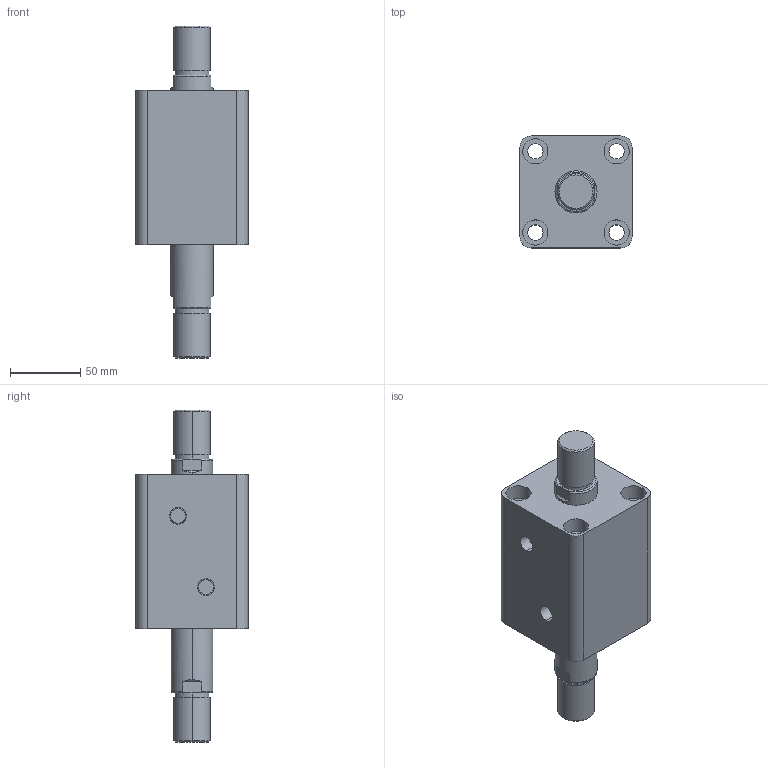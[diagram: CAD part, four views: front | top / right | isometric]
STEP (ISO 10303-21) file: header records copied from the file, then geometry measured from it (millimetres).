
FILE_DESCRIPTION (( 'STEP AP203' ), '1' );
FILE_NAME ('HTB-SW50-35W.STEP', '2019-10-07T09:19:38', ( '微软用户' ), ( '微软中国' ), 'SwSTEP 2.0', 'SolidWorks 2012', '' );
FILE_SCHEMA (( 'CONFIG_CONTROL_DESIGN' ));
Length unit declared in the file: millimetre
Products named in the file (3): HTB-SW50-35W; HTB-SW50-35W活塞杆; HTB-SW50-35掛极
Assembly tree (2 placements, depth 2):
  HTB-SW50-35W
    HTB-SW50-35掛极
    HTB-SW50-35W活塞杆
Bounding box: 80 x 80 x 237 mm (x, y, z)
Volume: 672491.9 mm3; surface area: 105200 mm2
Topology: 2 solids, 2 shells, 108 faces, 240 edges, 156 vertices
Faces by surface type: cylinder 52, plane 36, torus 12, cone 8
Entity records: 3449 total; most frequent: CARTESIAN_POINT 629, DIRECTION 586, ORIENTED_EDGE 480, AXIS2_PLACEMENT_3D 249, EDGE_CURVE 240, VERTEX_POINT 156, EDGE_LOOP 138, CIRCLE 136
